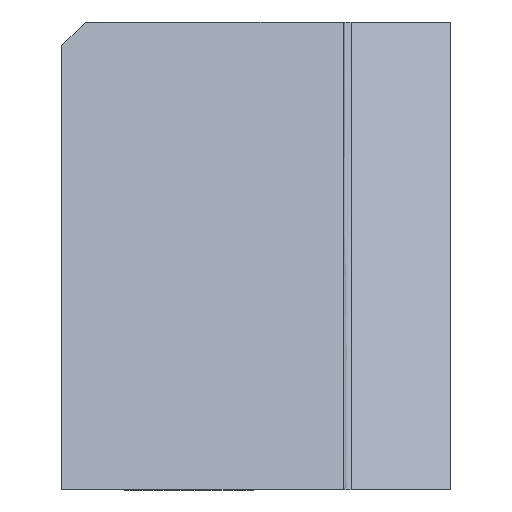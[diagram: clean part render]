
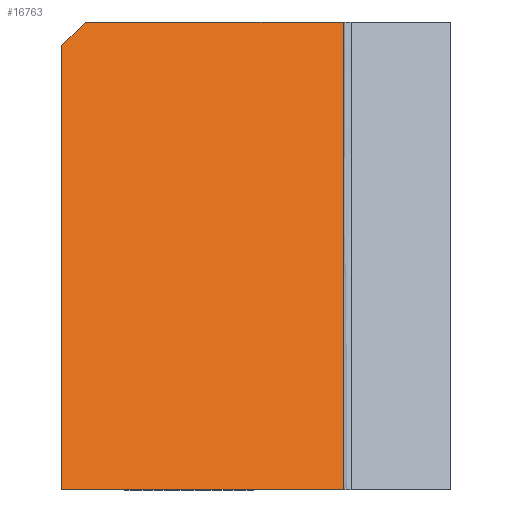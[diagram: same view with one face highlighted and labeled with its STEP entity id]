
A CAD part, left-side view. The second image highlights one B-rep face of the part: STEP entity #16763.
In plain terms, the highlighted planar face has unit normal (-0.943, 0, 0.334).
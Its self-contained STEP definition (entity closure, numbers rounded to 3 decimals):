
#1506=ORIENTED_EDGE('',*,*,#5084,.F.);
#1507=ORIENTED_EDGE('',*,*,#5085,.T.);
#1508=ORIENTED_EDGE('',*,*,#4329,.F.);
#1509=ORIENTED_EDGE('',*,*,#5086,.F.);
#1510=ORIENTED_EDGE('',*,*,#4781,.F.);
#4329=EDGE_CURVE('',#6118,#6119,#7301,.T.);
#4781=EDGE_CURVE('',#6569,#6571,#7598,.T.);
#5084=EDGE_CURVE('',#6873,#6569,#7801,.T.);
#5085=EDGE_CURVE('',#6873,#6119,#7802,.T.);
#5086=EDGE_CURVE('',#6571,#6118,#7803,.T.);
#6118=VERTEX_POINT('',#21752);
#6119=VERTEX_POINT('',#21753);
#6569=VERTEX_POINT('',#23276);
#6571=VERTEX_POINT('',#23279);
#6873=VERTEX_POINT('',#23885);
#7301=LINE('',#21751,#8690);
#7598=LINE('',#23278,#8987);
#7801=LINE('',#23884,#9190);
#7802=LINE('',#23886,#9191);
#7803=LINE('',#23887,#9192);
#8690=VECTOR('',#18279,1000.);
#8987=VECTOR('',#18820,1000.);
#9190=VECTOR('',#19225,1000.);
#9191=VECTOR('',#19226,1000.);
#9192=VECTOR('',#19227,1000.);
#10042=EDGE_LOOP('',(#1506,#1507,#1508,#1509,#1510));
#10833=FACE_BOUND('',#10042,.T.);
#11561=PLANE('',#17664);
#16763=ADVANCED_FACE('',(#10833),#11561,.T.);
#17664=AXIS2_PLACEMENT_3D('',#23883,#19223,#19224);
#18279=DIRECTION('',(0.,1.,0.));
#18820=DIRECTION('',(0.,-1.,0.));
#19223=DIRECTION('',(-0.942,0.,0.334));
#19224=DIRECTION('',(0.,1.,0.));
#19225=DIRECTION('',(0.243,-0.686,0.686));
#19226=DIRECTION('',(-0.334,0.,-0.942));
#19227=DIRECTION('',(-0.334,0.,-0.942));
#21751=CARTESIAN_POINT('',(-20.926,0.,-59.));
#21752=CARTESIAN_POINT('',(-20.926,-35.5,-59.));
#21753=CARTESIAN_POINT('',(-20.926,0.,-59.));
#23276=CARTESIAN_POINT('',(0.,-3.,0.));
#23278=CARTESIAN_POINT('',(0.,0.,0.));
#23279=CARTESIAN_POINT('',(0.,-35.5,0.));
#23883=CARTESIAN_POINT('',(0.,-35.5,0.));
#23884=CARTESIAN_POINT('',(2.609,-10.356,7.356));
#23885=CARTESIAN_POINT('',(-1.064,0.,-3.));
#23886=CARTESIAN_POINT('',(0.,0.,0.));
#23887=CARTESIAN_POINT('',(0.,-35.5,0.));
